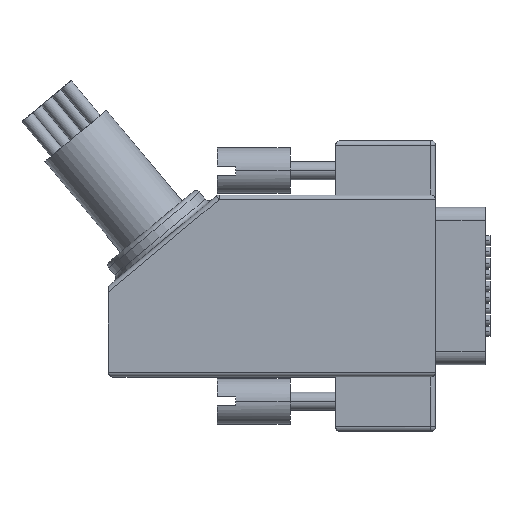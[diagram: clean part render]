
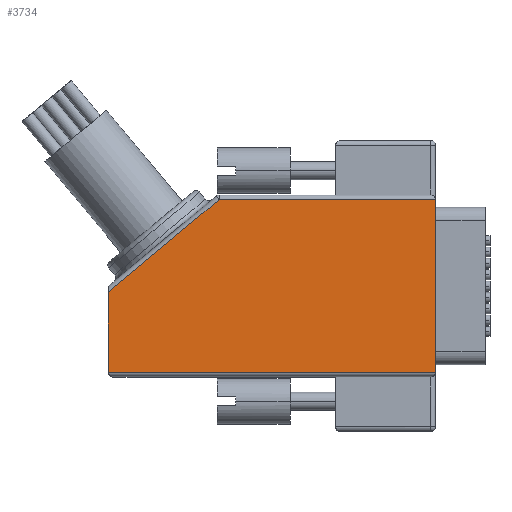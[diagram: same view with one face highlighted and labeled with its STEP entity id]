
A CAD part, top view. The second image highlights one B-rep face of the part: STEP entity #3734.
In plain terms, the highlighted planar face has unit normal (0, 0, 1).
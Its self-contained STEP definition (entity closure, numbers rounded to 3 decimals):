
#82 = ORIENTED_EDGE ( 'NONE', *, *, #2119, .T. ) ;
#142 = LINE ( 'NONE', #3941, #2633 ) ;
#235 = ORIENTED_EDGE ( 'NONE', *, *, #4307, .T. ) ;
#264 = EDGE_CURVE ( 'NONE', #304, #2969, #142, .T. ) ;
#276 = CARTESIAN_POINT ( 'NONE',  ( -12., -9.5, 7.5 ) ) ;
#304 = VERTEX_POINT ( 'NONE', #2907 ) ;
#441 = EDGE_CURVE ( 'NONE', #1606, #304, #5514, .T. ) ;
#504 = DIRECTION ( 'NONE',  ( -0.768, -0.64, 0. ) ) ;
#774 = EDGE_LOOP ( 'NONE', ( #1073, #2757, #235, #82, #4860 ) ) ;
#782 = DIRECTION ( 'NONE',  ( 1., 0., 0. ) ) ;
#786 = CARTESIAN_POINT ( 'NONE',  ( 24., 9.5, 7.5 ) ) ;
#997 = VECTOR ( 'NONE', #1751, 1000. ) ;
#1056 = DIRECTION ( 'NONE',  ( 0., -1., 0. ) ) ;
#1073 = ORIENTED_EDGE ( 'NONE', *, *, #441, .T. ) ;
#1208 = FACE_OUTER_BOUND ( 'NONE', #774, .T. ) ;
#1606 = VERTEX_POINT ( 'NONE', #786 ) ;
#1669 = DIRECTION ( 'NONE',  ( 0., 0., -1. ) ) ;
#1751 = DIRECTION ( 'NONE',  ( -1., 0., 0. ) ) ;
#1843 = CARTESIAN_POINT ( 'NONE',  ( 24., -9.5, 7.5 ) ) ;
#1883 = CARTESIAN_POINT ( 'NONE',  ( 24., -9.5, 7.5 ) ) ;
#2119 = EDGE_CURVE ( 'NONE', #6147, #3945, #3305, .T. ) ;
#2188 = CARTESIAN_POINT ( 'NONE',  ( 24., 9.5, 7.5 ) ) ;
#2401 = CARTESIAN_POINT ( 'NONE',  ( -12., -10., 7.5 ) ) ;
#2633 = VECTOR ( 'NONE', #504, 1000. ) ;
#2757 = ORIENTED_EDGE ( 'NONE', *, *, #264, .T. ) ;
#2907 = CARTESIAN_POINT ( 'NONE',  ( 0.181, 9.5, 7.5 ) ) ;
#2969 = VERTEX_POINT ( 'NONE', #6005 ) ;
#3305 = LINE ( 'NONE', #1843, #3815 ) ;
#3424 = CARTESIAN_POINT ( 'NONE',  ( 24., 10., 7.5 ) ) ;
#3561 = AXIS2_PLACEMENT_3D ( 'NONE', #5922, #1669, #3573 ) ;
#3573 = DIRECTION ( 'NONE',  ( -1., 0., 0. ) ) ;
#3734 = ADVANCED_FACE ( 'NONE', ( #1208 ), #4041, .F. ) ;
#3815 = VECTOR ( 'NONE', #782, 1000. ) ;
#3863 = LINE ( 'NONE', #3424, #4521 ) ;
#3941 = CARTESIAN_POINT ( 'NONE',  ( -11.68, -0.384, 7.5 ) ) ;
#3945 = VERTEX_POINT ( 'NONE', #1883 ) ;
#4041 = PLANE ( 'NONE',  #3561 ) ;
#4295 = DIRECTION ( 'NONE',  ( 0., -1., 0. ) ) ;
#4307 = EDGE_CURVE ( 'NONE', #2969, #6147, #4764, .T. ) ;
#4510 = VECTOR ( 'NONE', #4295, 1000. ) ;
#4521 = VECTOR ( 'NONE', #1056, 1000. ) ;
#4764 = LINE ( 'NONE', #2401, #4510 ) ;
#4860 = ORIENTED_EDGE ( 'NONE', *, *, #6050, .F. ) ;
#5514 = LINE ( 'NONE', #2188, #997 ) ;
#5922 = CARTESIAN_POINT ( 'NONE',  ( 24., 10., 7.5 ) ) ;
#6005 = CARTESIAN_POINT ( 'NONE',  ( -12., -0.651, 7.5 ) ) ;
#6050 = EDGE_CURVE ( 'NONE', #1606, #3945, #3863, .T. ) ;
#6147 = VERTEX_POINT ( 'NONE', #276 ) ;
